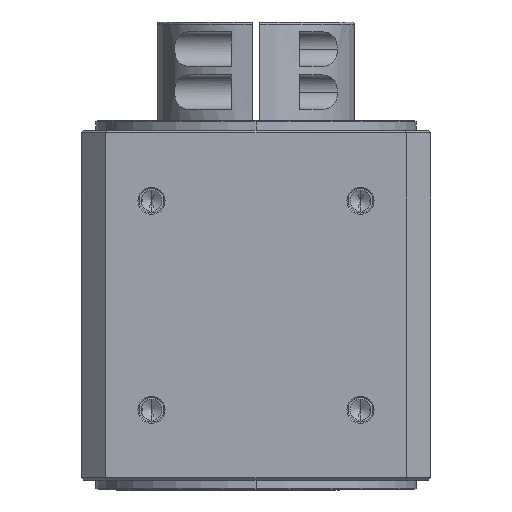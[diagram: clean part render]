
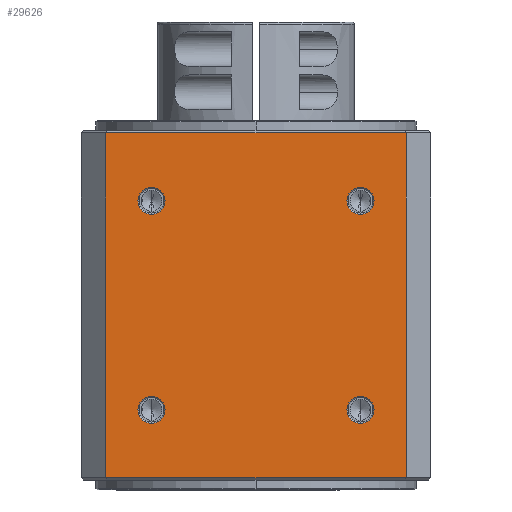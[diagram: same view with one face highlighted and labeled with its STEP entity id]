
A CAD part, left-side view. The second image highlights one B-rep face of the part: STEP entity #29626.
In plain terms, the highlighted planar face has unit normal (-1, 0, 0).
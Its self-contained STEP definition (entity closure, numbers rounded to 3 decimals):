
#634 = DIRECTION ( 'NONE',  ( 0., 0., 1. ) ) ;
#635 = DIRECTION ( 'NONE',  ( -1., 0., 0. ) ) ;
#636 = CARTESIAN_POINT ( 'NONE',  ( -71., 42.426, 117.426 ) ) ;
#637 = AXIS2_PLACEMENT_3D ( 'NONE', #636, #635, #634 ) ;
#724 = CIRCLE ( 'NONE', #637, 5.5 ) ;
#4669 = CIRCLE ( 'NONE', #4682, 5.5 ) ;
#4682 = AXIS2_PLACEMENT_3D ( 'NONE', #4684, #4683, #4713 ) ;
#4683 = DIRECTION ( 'NONE',  ( -1., 0., 0. ) ) ;
#4684 = CARTESIAN_POINT ( 'NONE',  ( -71., 42.426, 32.574 ) ) ;
#4713 = DIRECTION ( 'NONE',  ( 0., 0., 1. ) ) ;
#5032 = CARTESIAN_POINT ( 'NONE',  ( -71., -42.426, 111.926 ) ) ;
#5035 = DIRECTION ( 'NONE',  ( 0., 0., 1. ) ) ;
#5036 = DIRECTION ( 'NONE',  ( -1., 0., 0. ) ) ;
#5037 = CARTESIAN_POINT ( 'NONE',  ( -71., -42.426, 32.574 ) ) ;
#5038 = CARTESIAN_POINT ( 'NONE',  ( -71., -42.426, 38.074 ) ) ;
#5077 = AXIS2_PLACEMENT_3D ( 'NONE', #5037, #5036, #5035 ) ;
#5105 = CIRCLE ( 'NONE', #5077, 5.5 ) ;
#5177 = DIRECTION ( 'NONE',  ( 0., 0., 1. ) ) ;
#5178 = DIRECTION ( 'NONE',  ( -1., 0., 0. ) ) ;
#5185 = CARTESIAN_POINT ( 'NONE',  ( -71., 42.426, 38.074 ) ) ;
#5231 = CARTESIAN_POINT ( 'NONE',  ( -71., -42.426, 117.426 ) ) ;
#5240 = CARTESIAN_POINT ( 'NONE',  ( -71., -42.426, 122.926 ) ) ;
#5243 = CIRCLE ( 'NONE', #5322, 5.5 ) ;
#5283 = CARTESIAN_POINT ( 'NONE',  ( -71., -42.426, 27.074 ) ) ;
#5322 = AXIS2_PLACEMENT_3D ( 'NONE', #5231, #5178, #5177 ) ;
#7801 = CARTESIAN_POINT ( 'NONE',  ( -71., 42.426, 27.074 ) ) ;
#20097 = EDGE_CURVE ( 'NONE', #20485, #20419, #4669, .T. ) ;
#20342 = EDGE_CURVE ( 'NONE', #20411, #20343, #5105, .T. ) ;
#20343 = VERTEX_POINT ( 'NONE', #5038 ) ;
#20352 = VERTEX_POINT ( 'NONE', #5032 ) ;
#20411 = VERTEX_POINT ( 'NONE', #5283 ) ;
#20419 = VERTEX_POINT ( 'NONE', #5185 ) ;
#20443 = VERTEX_POINT ( 'NONE', #5240 ) ;
#20444 = EDGE_CURVE ( 'NONE', #20352, #20443, #5243, .T. ) ;
#20485 = VERTEX_POINT ( 'NONE', #7801 ) ;
#26720 = CIRCLE ( 'NONE', #26809, 5.5 ) ;
#26724 = DIRECTION ( 'NONE',  ( 0., 0., -1. ) ) ;
#26725 = VECTOR ( 'NONE', #26724, 1000. ) ;
#26727 = CARTESIAN_POINT ( 'NONE',  ( -71., 61., 150. ) ) ;
#26728 = LINE ( 'NONE', #26727, #26725 ) ;
#26732 = DIRECTION ( 'NONE',  ( 0., 0., 1. ) ) ;
#26733 = DIRECTION ( 'NONE',  ( -1., 0., 0. ) ) ;
#26734 = AXIS2_PLACEMENT_3D ( 'NONE', #26938, #26733, #26732 ) ;
#26737 = CARTESIAN_POINT ( 'NONE',  ( -71., 61., 145. ) ) ;
#26740 = CIRCLE ( 'NONE', #26734, 5.5 ) ;
#26741 = DIRECTION ( 'NONE',  ( 0., -1., 0. ) ) ;
#26742 = VECTOR ( 'NONE', #26741, 1000. ) ;
#26743 = CARTESIAN_POINT ( 'NONE',  ( -71., -61., 5. ) ) ;
#26744 = LINE ( 'NONE', #26743, #26742 ) ;
#26806 = DIRECTION ( 'NONE',  ( 0., 0., 1. ) ) ;
#26807 = DIRECTION ( 'NONE',  ( -1., 0., 0. ) ) ;
#26808 = CARTESIAN_POINT ( 'NONE',  ( -71., 42.426, 117.426 ) ) ;
#26809 = AXIS2_PLACEMENT_3D ( 'NONE', #26808, #26807, #26806 ) ;
#26817 = CARTESIAN_POINT ( 'NONE',  ( -71., 61., 5. ) ) ;
#26938 = CARTESIAN_POINT ( 'NONE',  ( -71., -42.426, 117.426 ) ) ;
#27430 = AXIS2_PLACEMENT_3D ( 'NONE', #27611, #27610, #27609 ) ;
#27436 = CIRCLE ( 'NONE', #27430, 5.5 ) ;
#27456 = FACE_BOUND ( 'NONE', #29732, .T. ) ;
#27457 = CARTESIAN_POINT ( 'NONE',  ( -71., 71., 150. ) ) ;
#27462 = FACE_BOUND ( 'NONE', #29539, .T. ) ;
#27520 = DIRECTION ( 'NONE',  ( 0., 0., -1. ) ) ;
#27530 = PLANE ( 'NONE',  #27614 ) ;
#27534 = FACE_BOUND ( 'NONE', #29625, .T. ) ;
#27543 = FACE_BOUND ( 'NONE', #29628, .T. ) ;
#27578 = FACE_OUTER_BOUND ( 'NONE', #29687, .T. ) ;
#27609 = DIRECTION ( 'NONE',  ( 0., 0., 1. ) ) ;
#27610 = DIRECTION ( 'NONE',  ( -1., 0., 0. ) ) ;
#27611 = CARTESIAN_POINT ( 'NONE',  ( -71., -42.426, 32.574 ) ) ;
#27613 = DIRECTION ( 'NONE',  ( 1., 0., 0. ) ) ;
#27614 = AXIS2_PLACEMENT_3D ( 'NONE', #27457, #27613, #27520 ) ;
#28235 = DIRECTION ( 'NONE',  ( 0., 0., 1. ) ) ;
#28237 = DIRECTION ( 'NONE',  ( -1., 0., 0. ) ) ;
#28244 = CIRCLE ( 'NONE', #28255, 5.5 ) ;
#28255 = AXIS2_PLACEMENT_3D ( 'NONE', #28270, #28237, #28235 ) ;
#28270 = CARTESIAN_POINT ( 'NONE',  ( -71., 42.426, 32.574 ) ) ;
#28292 = DIRECTION ( 'NONE',  ( 0., 1., 0. ) ) ;
#28294 = VECTOR ( 'NONE', #28292, 1000. ) ;
#28295 = CARTESIAN_POINT ( 'NONE',  ( -71., 61., 145. ) ) ;
#28296 = LINE ( 'NONE', #28295, #28294 ) ;
#28298 = DIRECTION ( 'NONE',  ( 0., 0., 1. ) ) ;
#28299 = VECTOR ( 'NONE', #28298, 1000. ) ;
#28300 = CARTESIAN_POINT ( 'NONE',  ( -71., -61., 150. ) ) ;
#28310 = CARTESIAN_POINT ( 'NONE',  ( -71., -61., 5. ) ) ;
#28316 = LINE ( 'NONE', #28300, #28299 ) ;
#28334 = CARTESIAN_POINT ( 'NONE',  ( -71., -61., 145. ) ) ;
#29527 = EDGE_CURVE ( 'NONE', #29538, #29670, #26744, .T. ) ;
#29530 = EDGE_CURVE ( 'NONE', #20443, #20352, #26740, .T. ) ;
#29531 = VERTEX_POINT ( 'NONE', #26737 ) ;
#29532 = ORIENTED_EDGE ( 'NONE', *, *, #30116, .F. ) ;
#29533 = EDGE_CURVE ( 'NONE', #29531, #29538, #26728, .T. ) ;
#29537 = EDGE_CURVE ( 'NONE', #29918, #29920, #26720, .T. ) ;
#29538 = VERTEX_POINT ( 'NONE', #26817 ) ;
#29539 = EDGE_LOOP ( 'NONE', ( #29677, #29532 ) ) ;
#29609 = EDGE_CURVE ( 'NONE', #20343, #20411, #27436, .T. ) ;
#29620 = ORIENTED_EDGE ( 'NONE', *, *, #29609, .F. ) ;
#29621 = ORIENTED_EDGE ( 'NONE', *, *, #29693, .F. ) ;
#29625 = EDGE_LOOP ( 'NONE', ( #29620, #29691 ) ) ;
#29626 = ADVANCED_FACE ( 'NONE', ( #27543, #27534, #27456, #27462, #27578 ), #27530, .F. ) ;
#29627 = ORIENTED_EDGE ( 'NONE', *, *, #20097, .F. ) ;
#29628 = EDGE_LOOP ( 'NONE', ( #29621, #29627 ) ) ;
#29667 = ORIENTED_EDGE ( 'NONE', *, *, #29527, .T. ) ;
#29668 = VERTEX_POINT ( 'NONE', #28334 ) ;
#29670 = VERTEX_POINT ( 'NONE', #28310 ) ;
#29671 = ORIENTED_EDGE ( 'NONE', *, *, #29672, .T. ) ;
#29672 = EDGE_CURVE ( 'NONE', #29670, #29668, #28316, .T. ) ;
#29674 = EDGE_CURVE ( 'NONE', #29668, #29531, #28296, .T. ) ;
#29676 = ORIENTED_EDGE ( 'NONE', *, *, #29533, .T. ) ;
#29677 = ORIENTED_EDGE ( 'NONE', *, *, #29537, .F. ) ;
#29685 = ORIENTED_EDGE ( 'NONE', *, *, #29674, .T. ) ;
#29687 = EDGE_LOOP ( 'NONE', ( #29676, #29667, #29671, #29685 ) ) ;
#29688 = ORIENTED_EDGE ( 'NONE', *, *, #20444, .F. ) ;
#29691 = ORIENTED_EDGE ( 'NONE', *, *, #20342, .F. ) ;
#29693 = EDGE_CURVE ( 'NONE', #20419, #20485, #28244, .T. ) ;
#29732 = EDGE_LOOP ( 'NONE', ( #29733, #29688 ) ) ;
#29733 = ORIENTED_EDGE ( 'NONE', *, *, #29530, .F. ) ;
#29918 = VERTEX_POINT ( 'NONE', #30054 ) ;
#29920 = VERTEX_POINT ( 'NONE', #30031 ) ;
#30031 = CARTESIAN_POINT ( 'NONE',  ( -71., 42.426, 111.926 ) ) ;
#30054 = CARTESIAN_POINT ( 'NONE',  ( -71., 42.426, 122.926 ) ) ;
#30116 = EDGE_CURVE ( 'NONE', #29920, #29918, #724, .T. ) ;
